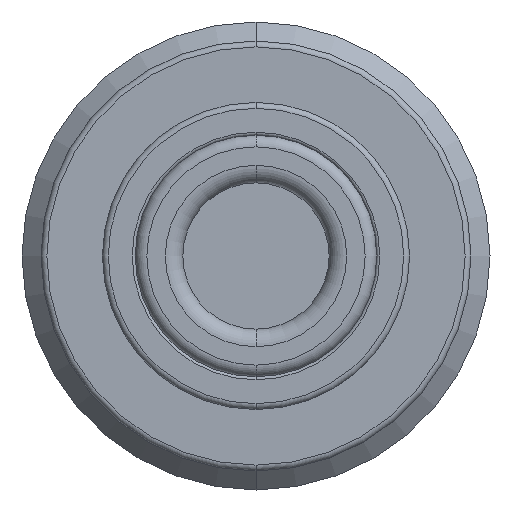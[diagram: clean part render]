
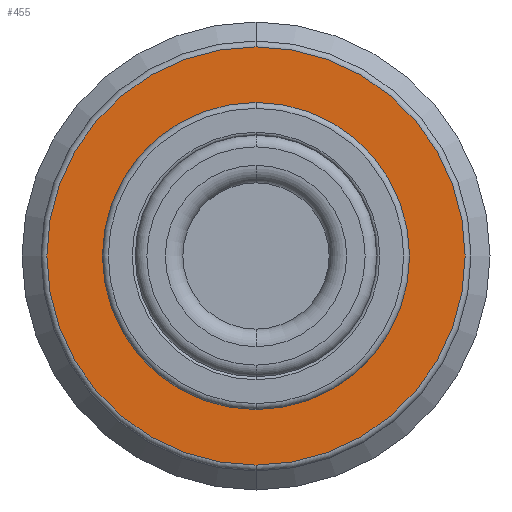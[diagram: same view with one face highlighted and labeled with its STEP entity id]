
A CAD part, front view. The second image highlights one B-rep face of the part: STEP entity #455.
In plain terms, the highlighted planar face has unit normal (0, -1, 0).
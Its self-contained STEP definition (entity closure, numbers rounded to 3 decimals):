
#128=PLANE('',#1873);
#163=FACE_BOUND('',#687,.T.);
#164=FACE_BOUND('',#688,.T.);
#455=ADVANCED_FACE('',(#163,#164),#128,.F.);
#687=EDGE_LOOP('',(#963,#964));
#688=EDGE_LOOP('',(#965,#966));
#963=ORIENTED_EDGE('',*,*,#1531,.T.);
#964=ORIENTED_EDGE('',*,*,#1407,.T.);
#965=ORIENTED_EDGE('',*,*,#1456,.T.);
#966=ORIENTED_EDGE('',*,*,#1530,.T.);
#1257=VERTEX_POINT('',#2609);
#1258=VERTEX_POINT('',#2610);
#1293=VERTEX_POINT('',#2707);
#1294=VERTEX_POINT('',#2709);
#1407=EDGE_CURVE('',#1257,#1258,#1641,.T.);
#1456=EDGE_CURVE('',#1294,#1293,#1669,.T.);
#1530=EDGE_CURVE('',#1293,#1294,#1700,.T.);
#1531=EDGE_CURVE('',#1258,#1257,#1701,.T.);
#1641=CIRCLE('',#1779,7.15);
#1669=CIRCLE('',#1821,5.25);
#1700=CIRCLE('',#1870,5.25);
#1701=CIRCLE('',#1872,7.15);
#1779=AXIS2_PLACEMENT_3D('',#2608,#2050,#2051);
#1821=AXIS2_PLACEMENT_3D('',#2708,#2155,#2156);
#1870=AXIS2_PLACEMENT_3D('',#3081,#2272,#2273);
#1872=AXIS2_PLACEMENT_3D('',#3083,#2276,#2277);
#1873=AXIS2_PLACEMENT_3D('',#3084,#2278,#2279);
#2050=DIRECTION('',(0.,-1.,0.));
#2051=DIRECTION('',(0.,0.,1.));
#2155=DIRECTION('',(0.,1.,0.));
#2156=DIRECTION('',(0.,0.,1.));
#2272=DIRECTION('',(0.,1.,0.));
#2273=DIRECTION('',(0.,0.,1.));
#2276=DIRECTION('',(0.,-1.,0.));
#2277=DIRECTION('',(0.,0.,1.));
#2278=DIRECTION('',(0.,1.,0.));
#2279=DIRECTION('',(0.,0.,1.));
#2608=CARTESIAN_POINT('',(0.,0.,0.));
#2609=CARTESIAN_POINT('',(0.,0.,-7.15));
#2610=CARTESIAN_POINT('',(0.,0.,7.15));
#2707=CARTESIAN_POINT('',(0.,0.,-5.25));
#2708=CARTESIAN_POINT('',(0.,0.,0.));
#2709=CARTESIAN_POINT('',(0.,0.,5.25));
#3081=CARTESIAN_POINT('',(0.,0.,0.));
#3083=CARTESIAN_POINT('',(0.,0.,0.));
#3084=CARTESIAN_POINT('',(0.,0.,0.));
